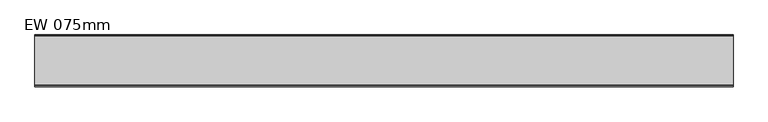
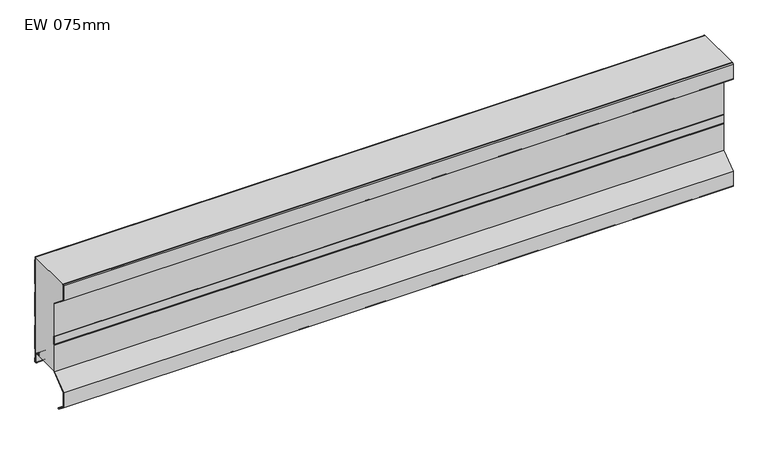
"""IFC4 building model written with IfcOpenShell, lengths in millimetres: plate geometry, KIP-MEX-KC-R19-CP-EW-SL : EW 075mm."""

from ifc_helpers import new_model, si_unit, point, frame, frame_2d, origin, place, context, project, spatial, polyline, circle_curve, trimmed, segment, composite_curve, outline, extrude, source, transform, mapped, element, save


def ew_075mm_3dc5efd1(model_context):
    return source(origin(), model_context, "Body", "SweptSolid", [
        extrude(outline(composite_curve([segment(polyline([(-2.2002307, 217.6192114), (-2.2002307, 224.3718713), (-1.2002307, 224.3718713), (-1.2002307, 217.9920919), (-0.3417885, 217.0010442)]), True, "CONTINUOUS"), segment(trimmed(circle_curve(frame_2d((-1.3999972, 216.0844273)), 1.3999972), [point((-0.3417885, 217.0010442))], [point((0.0, 216.0844273))], False, "CARTESIAN"), True, "CONTINUOUS"), segment(polyline([(0.0, 216.0844273), (0.0, 162.3293142)]), True, "CONTINUOUS"), segment(trimmed(circle_curve(frame_2d((-1.3999972, 162.3293142)), 1.3999972), [point((0.0, 162.3293142))], [point((-0.3417885, 161.4126973))], False, "CARTESIAN"), True, "CONTINUOUS"), segment(polyline([(-0.3417885, 161.4126973), (-1.2002307, 160.4216497), (-1.2002307, 141.7922443), (-0.3417885, 140.8011966)]), True, "CONTINUOUS"), segment(trimmed(circle_curve(frame_2d((-1.3999972, 139.8845797)), 1.3999972), [point((-0.3417885, 140.8011966))], [point((0.0, 139.8845797))], False, "CARTESIAN"), True, "CONTINUOUS"), segment(polyline([(0.0, 139.8845797), (0.0, 86.1294666)]), True, "CONTINUOUS"), segment(trimmed(circle_curve(frame_2d((-1.3999972, 86.1294666)), 1.3999972), [point((0.0, 86.1294666))], [point((-0.3417885, 85.2128497))], False, "CARTESIAN"), True, "CONTINUOUS"), segment(polyline([(-0.3417885, 85.2128497), (-1.2002307, 84.2218021), (-1.2002307, 65.5923967), (-0.3417885, 64.601349)]), True, "CONTINUOUS"), segment(trimmed(circle_curve(frame_2d((-1.3999972, 63.6847321)), 1.3999972), [point((-0.3417885, 64.601349))], [point((0.0, 63.6847321))], False, "CARTESIAN"), True, "CONTINUOUS"), segment(polyline([(0.0, 63.6847321), (0.0, 9.929619)]), True, "CONTINUOUS"), segment(trimmed(circle_curve(frame_2d((-1.3999972, 9.929619)), 1.3999972), [point((0.0, 9.929619))], [point((-0.3417885, 9.0130021))], False, "CARTESIAN"), True, "CONTINUOUS"), segment(polyline([(-0.3417885, 9.0130021), (-1.2002307, 8.0219545), (-1.2002307, -10.6074509), (-0.3417885, -11.5984986)]), True, "CONTINUOUS"), segment(trimmed(circle_curve(frame_2d((-1.3999972, -12.5151155)), 1.3999972), [point((-0.3417885, -11.5984986))], [point((0.0, -12.5151155))], False, "CARTESIAN"), True, "CONTINUOUS"), segment(polyline([(0.0, -12.5151155), (0.0, -20.3675812)]), True, "CONTINUOUS"), segment(trimmed(circle_curve(frame_2d((-1.4999795, -20.3675812)), 1.4999795), [point((0.0, -20.3675812))], [point((-1.4999795, -21.8675607))], False, "CARTESIAN"), True, "CONTINUOUS"), segment(polyline([(-1.4999795, -21.8675607), (-2.4999032, -21.8675607)]), True, "CONTINUOUS"), segment(trimmed(circle_curve(frame_2d((-2.4999032, -18.3676454)), 3.4999153), [point((-2.4999032, -21.8675607))], [point((-5.9998185, -18.3676454))], False, "CARTESIAN"), True, "CONTINUOUS"), segment(polyline([(-5.9998185, -18.3676454), (-5.9998185, -0.3670479)]), True, "CONTINUOUS"), segment(trimmed(circle_curve(frame_2d((-8.0001747, -0.3670479)), 2.0003562), [point((-5.9998185, -0.3670479))], [point((-7.9986755, 1.6333077))], True, "CARTESIAN"), True, "CONTINUOUS"), segment(polyline([(-7.9986755, 1.6333077), (-11.5958583, 1.6333077)]), True, "CONTINUOUS"), segment(trimmed(circle_curve(frame_2d((-11.5943838, 4.1340836)), 2.5007763), [point((-11.5958583, 1.6333077))], [point((-14.0574976, 3.7017037))], False, "CARTESIAN"), True, "CONTINUOUS"), segment(polyline([(-14.0574976, 3.7017037), (-14.6793261, 7.2440392), (-13.694386, 7.4169375), (-13.0725576, 3.8746027)]), True, "CONTINUOUS"), segment(trimmed(circle_curve(frame_2d((-11.5943841, 4.1340842)), 1.5007756), [point((-13.0725576, 3.8746027))], [point((-11.5943841, 2.6333086))], True, "CARTESIAN"), True, "CONTINUOUS"), segment(polyline([(-11.5943841, 2.6333086), (-7.9980709, 2.6333089)]), True, "CONTINUOUS"), segment(trimmed(circle_curve(frame_2d((-8.0001719, -0.3670493)), 3.0003589), [point((-7.9980709, 2.6333089))], [point((-4.999813, -0.3670493))], False, "CARTESIAN"), True, "CONTINUOUS"), segment(polyline([(-4.999813, -0.3670493), (-4.999813, -18.3676343)]), True, "CONTINUOUS"), segment(trimmed(circle_curve(frame_2d((-2.4999087, -18.3676343)), 2.4999043), [point((-4.999813, -18.3676343))], [point((-2.4999087, -20.8675386))], True, "CARTESIAN"), True, "CONTINUOUS"), segment(polyline([(-2.4999087, -20.8675386), (-0.9999889, -20.8675386), (-0.9999889, -12.3659771), (-2.2002307, -10.9803314), (-2.2002307, 8.3948349), (-1.0, 9.7804679), (-1.0, 63.8338833), (-2.2002307, 65.2195162), (-2.2002307, 84.5946825), (-1.0, 85.9803155), (-1.0, 140.0337309), (-2.2002307, 141.4193638), (-2.2002307, 160.7945301), (-1.0, 162.1801631), (-1.0, 216.2335785), (-2.2002307, 217.6192114)]), True, "CONTINUOUS")], self_intersect=False)), frame((-740.0, 0.0, 0.0), z_axis=(1.0, 0.0, 0.0), x_axis=(0.0, 1.0, 0.0)), (0.0, 0.0, 1.0), 1480.0),
        extrude(outline(composite_curve([segment(trimmed(circle_curve(frame_2d((-90.7875816, -75.4831487)), 1.5000016), [point((-90.338162, -74.0520558))], [point((-91.714315, -76.6626274))], False, "CARTESIAN"), True, "CONTINUOUS"), segment(polyline([(-91.714315, -76.6626274), (-110.000038, -62.2952701), (-110.000038, -27.2952321), (-75.0, 0.2047977), (-75.0, 62.4737665), (-73.9999989, 63.8880496), (-73.9999989, 82.4599218), (-75.0, 83.8742048), (-75.0, 160.2049713), (-110.000038, 187.7050012), (-110.000038, 222.7050392), (-107.8786153, 224.3718713), (-106.2600249, 224.3718713), (-109.000038, 222.2190039), (-109.000038, 188.1910365), (-74.0, 160.6910066), (-74.0, 84.1920296), (-72.9999989, 82.7777465), (-72.9999989, 63.5702249), (-74.0, 62.1559418), (-74.0, -0.2812376), (-109.000038, -27.7812674), (-109.000038, -61.8092349), (-94.3105941, -73.3509437), (-90.338162, -74.0520558)]), True, "CONTINUOUS")], self_intersect=False)), frame((-740.0, 0.0, 0.0), z_axis=(1.0, 0.0, 0.0), x_axis=(0.0, 1.0, 0.0)), (0.0, 0.0, 1.0), 1480.0),
        extrude(outline(composite_curve([segment(polyline([(-109.000038, 222.2190039), (-106.2600249, 224.3718713), (-2.2002307, 224.3718713), (-2.2002307, 217.6192115), (-1.0, 216.2335785), (-1.0, 162.1801631), (-2.2002307, 160.7945302), (-2.2002307, 141.4193639), (-1.0, 140.0337309), (-1.0, 85.9803155), (-2.2002307, 84.5946826), (-2.2002307, 65.2195163), (-1.0, 63.8338833), (-1.0, 9.7804679), (-2.2002307, 8.394835), (-2.2002307, -10.9803313), (-0.9999916, -12.365974), (-0.9999916, -20.8675386), (-2.4999198, -20.8675386)]), True, "CONTINUOUS"), segment(trimmed(circle_curve(frame_2d((-2.4999198, -18.3676343)), 2.4999043), [point((-2.4999198, -20.8675386))], [point((-4.9998241, -18.3676343))], False, "CARTESIAN"), True, "CONTINUOUS"), segment(polyline([(-4.9998241, -18.3676343), (-4.9998241, -0.3670493)]), True, "CONTINUOUS"), segment(trimmed(circle_curve(frame_2d((-8.0001829, -0.3670493)), 3.0003589), [point((-4.9998241, -0.3670493))], [point((-7.998082, 2.6333088))], True, "CARTESIAN"), True, "CONTINUOUS"), segment(polyline([(-7.998082, 2.6333088), (-11.5943952, 2.6333088)]), True, "CONTINUOUS"), segment(trimmed(circle_curve(frame_2d((-11.5943952, 4.1340843)), 1.5007755), [point((-11.5943952, 2.6333088))], [point((-13.0725686, 3.8746028))], False, "CARTESIAN"), True, "CONTINUOUS"), segment(polyline([(-13.0725686, 3.8746028), (-13.6943971, 7.4169376), (-14.6793372, 7.2440392), (-14.0575086, 3.7017037)]), True, "CONTINUOUS"), segment(trimmed(circle_curve(frame_2d((-11.5943948, 4.1340836)), 2.5007762), [point((-14.0575086, 3.7017037))], [point((-11.5958694, 1.6333077))], True, "CARTESIAN"), True, "CONTINUOUS"), segment(polyline([(-11.5958694, 1.6333077), (-74.0, 1.6333077), (-74.0, 62.1559418), (-72.9999989, 63.5702249), (-72.9999989, 82.7777465), (-74.0, 84.1920296), (-74.0, 160.6910066), (-109.000038, 188.1910365), (-109.000038, 222.2190039)]), True, "CONTINUOUS")], self_intersect=False)), frame((-740.0, 0.0, 0.0), z_axis=(1.0, 0.0, 0.0), x_axis=(0.0, 1.0, 0.0)), (0.0, 0.0, 1.0), 1480.0),
    ])


if __name__ == "__main__":
    model = new_model("IFC4")
    model_context = context("Model", 3, world=origin())
    ifc_project = project(units=[si_unit("LENGTHUNIT", "METRE", prefix="MILLI")], contexts=[model_context])
    site = spatial("IfcSite", under=ifc_project)
    building = spatial("IfcBuilding", under=site)
    placement = place(None, origin())
    ew_075mm_shape = ew_075mm_3dc5efd1(model_context)
    element("IfcPlate", 1, ObjectType="KIP-MEX-KC-R19-CP-EW-SL : EW 075mm", at=placement, inside=building, context=model_context, shape_type="MappedRepresentation", body=[
        mapped(ew_075mm_shape, transform((0.0, 0.0, 0.0), x_axis=(1.0, 0.0, 0.0), y_axis=(0.0, 1.0, 0.0), z_axis=(0.0, 0.0, 1.0))),
    ])
    save(model, "model.ifc")
